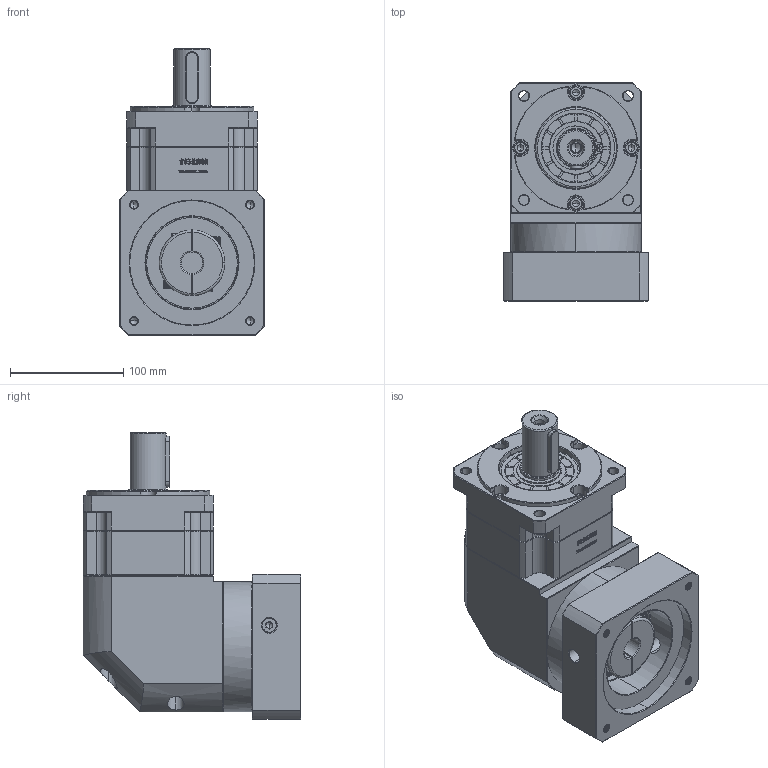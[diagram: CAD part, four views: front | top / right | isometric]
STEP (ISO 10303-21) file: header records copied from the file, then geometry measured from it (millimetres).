
FILE_DESCRIPTION (( 'STEP AP214' ), '1' );
FILE_NAME ('ZBR115A-D32-L1-19-110-145-M8.step', '2023-03-03T04:59:36', ( '' ), ( 'Microsoft' ), 'SwSTEP 2.0', 'SolidWorks 2016', '' );
FILE_SCHEMA (( 'AUTOMOTIVE_DESIGN' ));
Length unit declared in the file: millimetre
Products named in the file (1): ZBR115A-D32-L1-19-110-145-M8
Bounding box: 128 x 192.4 x 253 mm (x, y, z)
Volume: 3058841.2 mm3; surface area: 255391.9 mm2
Topology: 6 solids, 6 shells, 2982 faces, 7906 edges, 5070 vertices
Faces by surface type: plane 1559, bspline 607, cylinder 439, cone 369, torus 8
Entity records: 162027 total; most frequent: CARTESIAN_POINT 60115, ORIENTED_EDGE 15752, DIRECTION 11922, EDGE_CURVE 7876, LINE 5306, VECTOR 5306, VERTEX_POINT 5070, AXIS2_PLACEMENT_3D 3308
